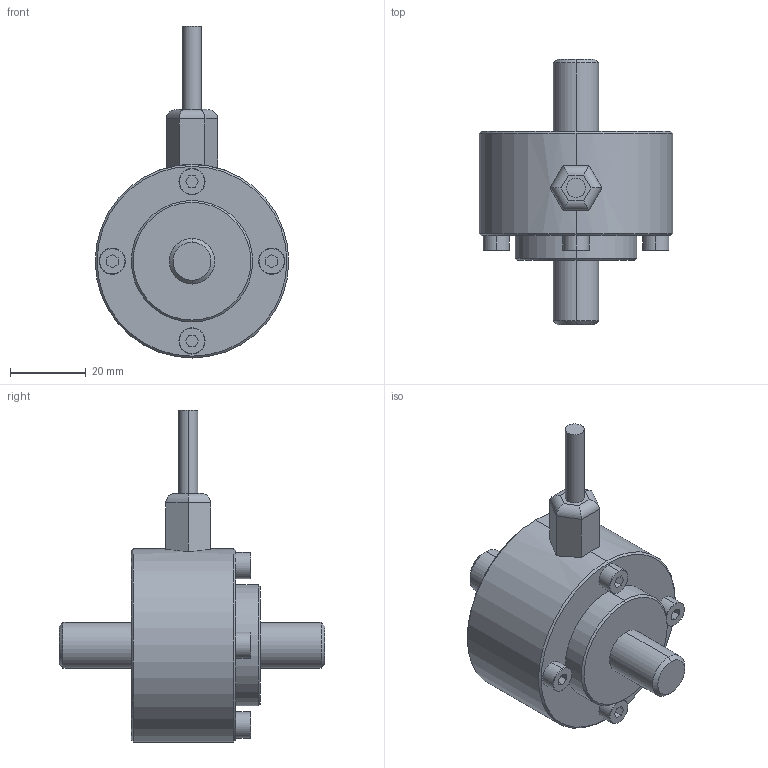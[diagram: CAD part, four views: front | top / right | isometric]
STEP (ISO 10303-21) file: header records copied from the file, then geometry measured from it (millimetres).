
FILE_DESCRIPTION (( 'STEP AP214' ), '1' );
FILE_NAME ('CO 200-Y2.STEP', '2023-08-31T09:58:07', ( '' ), ( '' ), 'SwSTEP 2.0', 'SolidWorks 2022', '' );
FILE_SCHEMA (( 'AUTOMOTIVE_DESIGN' ));
Length unit declared in the file: millimetre
Products named in the file (1): CO 200-Y2
Bounding box: 51 x 70 x 87.5 mm (x, y, z)
Volume: 68062.6 mm3; surface area: 11683 mm2
Topology: 1 solids, 1 shells, 87 faces, 195 edges, 122 vertices
Faces by surface type: plane 45, cylinder 24, cone 18
Entity records: 2462 total; most frequent: CARTESIAN_POINT 435, DIRECTION 419, ORIENTED_EDGE 390, EDGE_CURVE 195, AXIS2_PLACEMENT_3D 146, LINE 127, VECTOR 127, VERTEX_POINT 122
